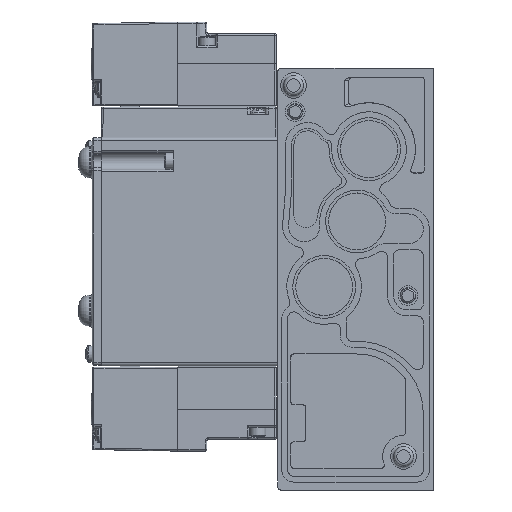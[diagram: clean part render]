
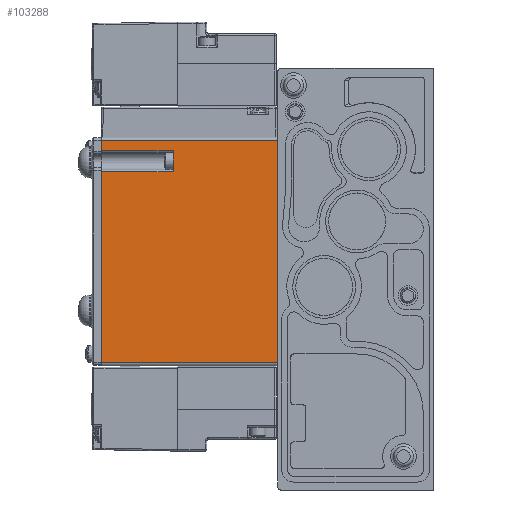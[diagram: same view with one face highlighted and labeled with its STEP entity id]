
A CAD part, left-side view. The second image highlights one B-rep face of the part: STEP entity #103288.
In plain terms, the highlighted planar face has unit normal (-1, 0, 0).
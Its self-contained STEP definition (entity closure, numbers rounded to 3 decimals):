
#6518 = VERTEX_POINT ( 'NONE', #71348 ) ;
#8475 = LINE ( 'NONE', #99785, #71104 ) ;
#8891 = DIRECTION ( 'NONE',  ( -1., 0., 0. ) ) ;
#9253 = ORIENTED_EDGE ( 'NONE', *, *, #87647, .F. ) ;
#12065 = ORIENTED_EDGE ( 'NONE', *, *, #95447, .F. ) ;
#14720 = EDGE_CURVE ( 'NONE', #37116, #6518, #16190, .T. ) ;
#16190 = LINE ( 'NONE', #86613, #35440 ) ;
#17037 = CARTESIAN_POINT ( 'NONE',  ( -12., 0., -37.25 ) ) ;
#17916 = VECTOR ( 'NONE', #70665, 1000. ) ;
#19522 = CARTESIAN_POINT ( 'NONE',  ( -12., 59., -37.25 ) ) ;
#24532 = CARTESIAN_POINT ( 'NONE',  ( -12., 0., 38.25 ) ) ;
#25025 = ORIENTED_EDGE ( 'NONE', *, *, #14720, .F. ) ;
#30720 = CARTESIAN_POINT ( 'NONE',  ( -12., 35., 26.75 ) ) ;
#31402 = LINE ( 'NONE', #63097, #50464 ) ;
#35440 = VECTOR ( 'NONE', #45981, 1000. ) ;
#37116 = VERTEX_POINT ( 'NONE', #30720 ) ;
#38833 = VERTEX_POINT ( 'NONE', #57060 ) ;
#41130 = PLANE ( 'NONE',  #77756 ) ;
#42735 = DIRECTION ( 'NONE',  ( 0., -1., 0. ) ) ;
#44122 = CARTESIAN_POINT ( 'NONE',  ( -12., 59., 38.25 ) ) ;
#44703 = VERTEX_POINT ( 'NONE', #94877 ) ;
#45955 = VECTOR ( 'NONE', #89789, 1000. ) ;
#45981 = DIRECTION ( 'NONE',  ( 0., 0., 1. ) ) ;
#46133 = CARTESIAN_POINT ( 'NONE',  ( -12., 35., 26.75 ) ) ;
#50002 = DIRECTION ( 'NONE',  ( 0., 1., 0. ) ) ;
#50464 = VECTOR ( 'NONE', #71283, 1000. ) ;
#50908 = VERTEX_POINT ( 'NONE', #17037 ) ;
#50997 = VERTEX_POINT ( 'NONE', #19522 ) ;
#51783 = ORIENTED_EDGE ( 'NONE', *, *, #71753, .T. ) ;
#52302 = DIRECTION ( 'NONE',  ( 0., 0., 1. ) ) ;
#55563 = EDGE_LOOP ( 'NONE', ( #12065, #84541, #95329, #72871, #56447, #9253, #25025, #51783 ) ) ;
#56447 = ORIENTED_EDGE ( 'NONE', *, *, #76760, .F. ) ;
#57060 = CARTESIAN_POINT ( 'NONE',  ( -12., 0., 37.25 ) ) ;
#57918 = CARTESIAN_POINT ( 'NONE',  ( -12., 59., 38.25 ) ) ;
#58090 = EDGE_CURVE ( 'NONE', #38833, #100169, #95187, .T. ) ;
#61589 = VERTEX_POINT ( 'NONE', #69275 ) ;
#63097 = CARTESIAN_POINT ( 'NONE',  ( -12., 59., 38.25 ) ) ;
#66074 = DIRECTION ( 'NONE',  ( 0., 0., 1. ) ) ;
#67420 = DIRECTION ( 'NONE',  ( 0., 1., 0. ) ) ;
#67712 = EDGE_CURVE ( 'NONE', #50997, #50908, #8475, .T. ) ;
#68610 = VECTOR ( 'NONE', #50002, 1000. ) ;
#69275 = CARTESIAN_POINT ( 'NONE',  ( -12., 59., 33.75 ) ) ;
#70127 = LINE ( 'NONE', #24532, #45955 ) ;
#70665 = DIRECTION ( 'NONE',  ( 0., 1., 0. ) ) ;
#71104 = VECTOR ( 'NONE', #42735, 1000. ) ;
#71158 = LINE ( 'NONE', #74229, #68610 ) ;
#71283 = DIRECTION ( 'NONE',  ( 0., 0., 1. ) ) ;
#71348 = CARTESIAN_POINT ( 'NONE',  ( -12., 35., 33.75 ) ) ;
#71753 = EDGE_CURVE ( 'NONE', #37116, #44703, #83120, .T. ) ;
#72502 = LINE ( 'NONE', #44122, #91703 ) ;
#72871 = ORIENTED_EDGE ( 'NONE', *, *, #58090, .T. ) ;
#73417 = VECTOR ( 'NONE', #67420, 1000. ) ;
#74229 = CARTESIAN_POINT ( 'NONE',  ( -12., 35., 33.75 ) ) ;
#76760 = EDGE_CURVE ( 'NONE', #61589, #100169, #72502, .T. ) ;
#77756 = AXIS2_PLACEMENT_3D ( 'NONE', #57918, #8891, #66074 ) ;
#77794 = CARTESIAN_POINT ( 'NONE',  ( -12., 59., 37.25 ) ) ;
#83120 = LINE ( 'NONE', #46133, #17916 ) ;
#84541 = ORIENTED_EDGE ( 'NONE', *, *, #67712, .T. ) ;
#86613 = CARTESIAN_POINT ( 'NONE',  ( -12., 35., 26.75 ) ) ;
#87647 = EDGE_CURVE ( 'NONE', #6518, #61589, #71158, .T. ) ;
#89789 = DIRECTION ( 'NONE',  ( 0., 0., -1. ) ) ;
#90572 = EDGE_CURVE ( 'NONE', #38833, #50908, #70127, .T. ) ;
#91616 = FACE_OUTER_BOUND ( 'NONE', #55563, .T. ) ;
#91703 = VECTOR ( 'NONE', #52302, 1000. ) ;
#91750 = CARTESIAN_POINT ( 'NONE',  ( -12., 59., 37.25 ) ) ;
#94877 = CARTESIAN_POINT ( 'NONE',  ( -12., 59., 26.75 ) ) ;
#95187 = LINE ( 'NONE', #91750, #73417 ) ;
#95329 = ORIENTED_EDGE ( 'NONE', *, *, #90572, .F. ) ;
#95447 = EDGE_CURVE ( 'NONE', #50997, #44703, #31402, .T. ) ;
#99785 = CARTESIAN_POINT ( 'NONE',  ( -12., 0., -37.25 ) ) ;
#100169 = VERTEX_POINT ( 'NONE', #77794 ) ;
#103288 = ADVANCED_FACE ( 'NONE', ( #91616 ), #41130, .T. ) ;
